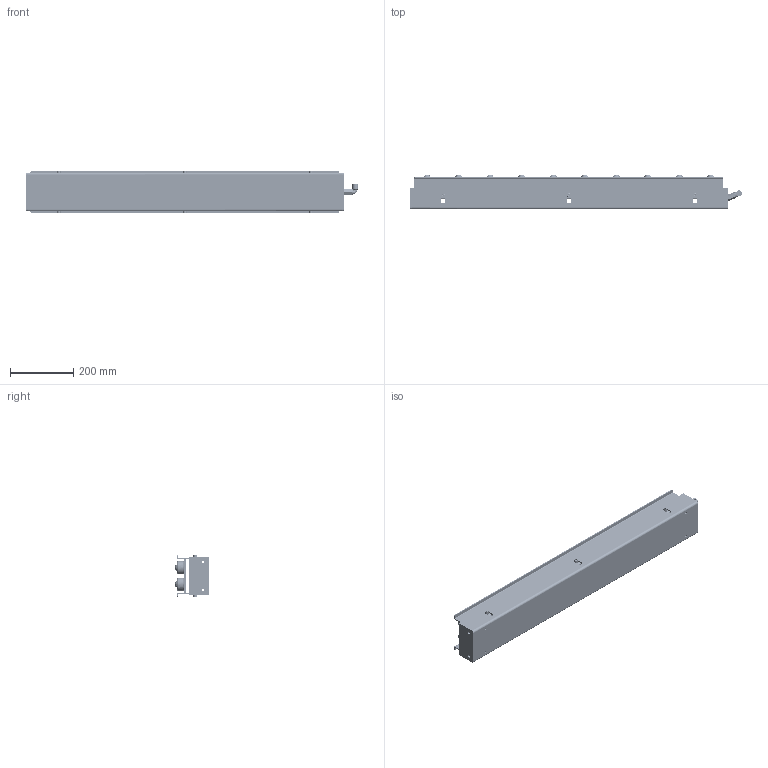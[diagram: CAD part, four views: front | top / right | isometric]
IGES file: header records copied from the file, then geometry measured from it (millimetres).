
Start section: 3D InterOp IGES (Version 21 0 2), Spatial Corp. Copyright (c) 1999-2007.
Global section: file name: ALB-BB1008_H.igs; native system: Spatial Corp.; preprocessor: 3D InterOp GENERIC/IGES 3.0; author: Noname; organization: Noname; date: 20130319.171651; units: millimetre
Bounding box: 1052.98 x 110 x 135 mm (x, y, z)
Surface area: 1493447.6 mm2 (no closed solid volume)
Topology: 0 solids, 0 shells, 1376 faces, 13946 edges, 13934 vertices
Faces by surface type: bspline 1376
